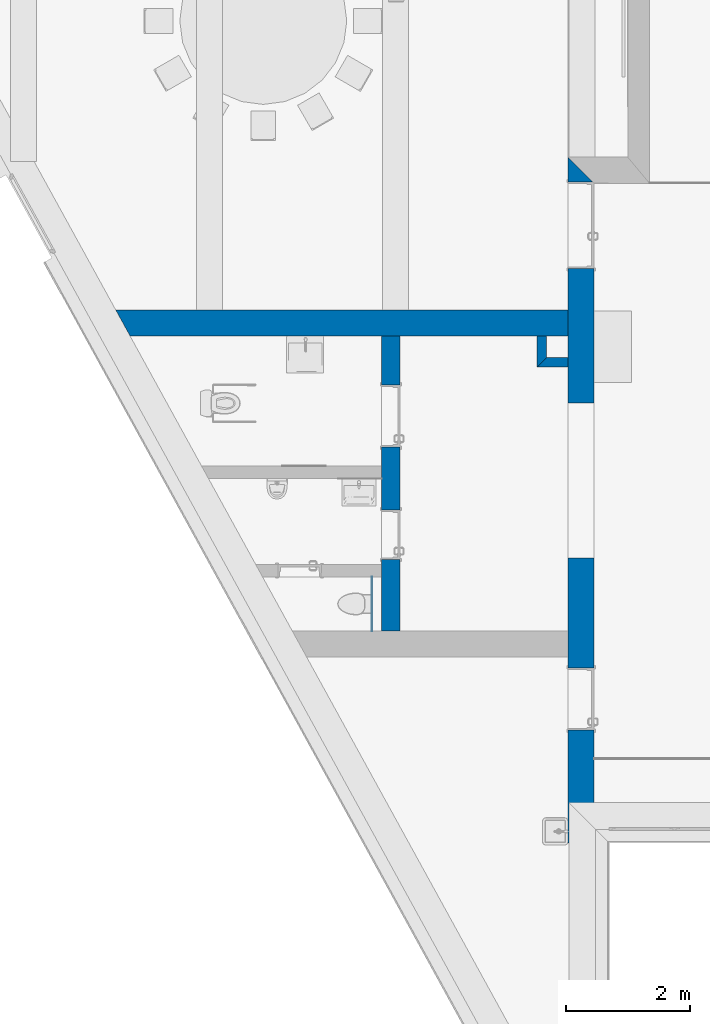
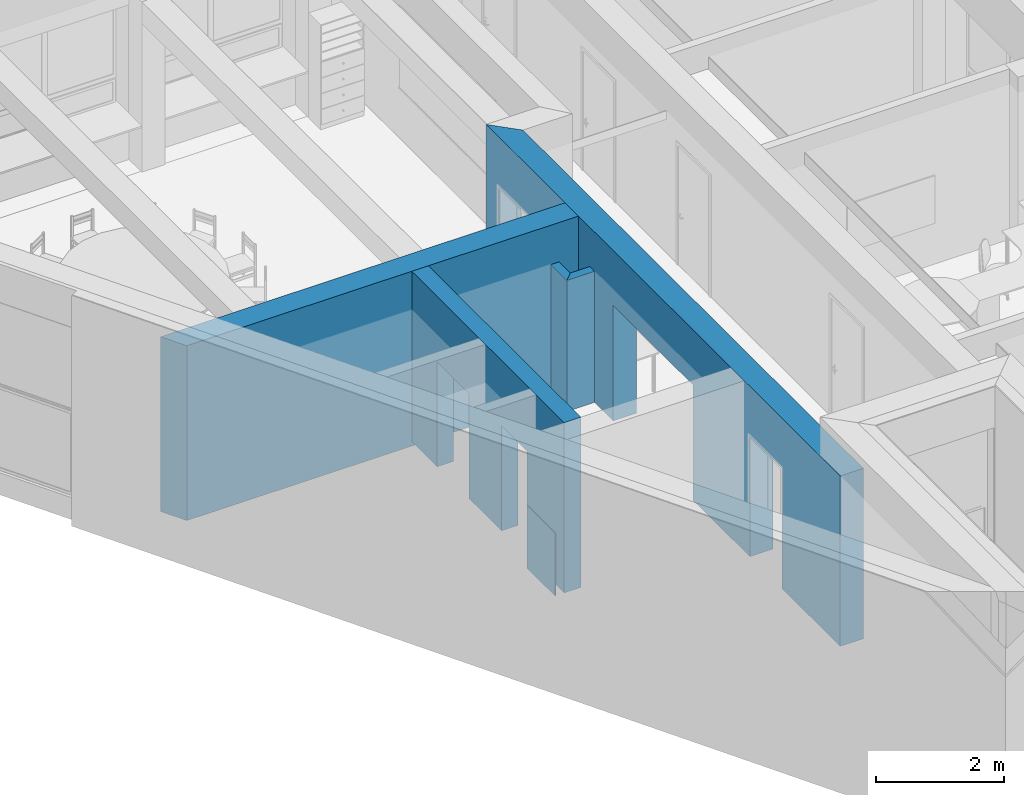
# One storey, part 2 of 194: 6 walls, 5 openings.
"""IFC2X3 building model written with IfcOpenShell, lengths in millimetres."""

from ifc_helpers import new_model, entity, si_unit, converted_unit, derived_unit, money_unit, direction, frame, origin_with_axes, origin_2d_with_axis, place, context, subcontext, project, spatial, polyline, rectangle, outline, extrude, material, layer, layer_set, layer_usage, type_object, element, save


model = new_model("IFC2X3")

# Units and contexts
model_context = context("Model", 3, precision=1e-05, world=origin_with_axes(), true_north=direction((0.0, 1.0)))
body_context = subcontext(model_context, "Body", "Model", "MODEL_VIEW")
ifc_project = project(units=[si_unit("LENGTHUNIT", "METRE", prefix="MILLI"), si_unit("AREAUNIT", "SQUARE_METRE"), si_unit("VOLUMEUNIT", "CUBIC_METRE"), converted_unit("PLANEANGLEUNIT", "DEGREE", entity("IfcPlaneAngleMeasure", 0.0174532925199), si_unit("PLANEANGLEUNIT", "RADIAN"), dimensions=[0, 0, 0, 0, 0, 0, 0]), si_unit("SOLIDANGLEUNIT", "STERADIAN"), money_unit("EUR"), converted_unit("TIMEUNIT", "Year", entity("IfcTimeMeasure", 31556926.0), si_unit("TIMEUNIT", "SECOND"), dimensions=[0, 0, 1, 0, 0, 0, 0]), si_unit("MASSUNIT", "GRAM", prefix="KILO"), si_unit("THERMODYNAMICTEMPERATUREUNIT", "DEGREE_CELSIUS"), si_unit("LUMINOUSINTENSITYUNIT", "LUMEN"), si_unit("ENERGYUNIT", "JOULE", prefix="MEGA"), derived_unit("THERMALCONDUCTANCEUNIT", [(si_unit("POWERUNIT", "WATT"), 1), (si_unit("LENGTHUNIT", "METRE"), -1), (si_unit("THERMODYNAMICTEMPERATUREUNIT", "KELVIN"), -1)]), derived_unit("SPECIFICHEATCAPACITYUNIT", [(si_unit("ENERGYUNIT", "JOULE"), 1), (si_unit("MASSUNIT", "GRAM", prefix="KILO"), -1), (si_unit("THERMODYNAMICTEMPERATUREUNIT", "KELVIN"), -1)]), derived_unit("MASSDENSITYUNIT", [(si_unit("MASSUNIT", "GRAM", prefix="KILO"), 1), (si_unit("VOLUMEUNIT", "CUBIC_METRE"), -1)])], contexts=[model_context])

# Site, building, storey
site_placement = place(None, origin_with_axes())
site = spatial("IfcSite", under=ifc_project, at=site_placement, Name="Site", CompositionType="ELEMENT")
building_placement = place(site_placement, origin_with_axes())
building = spatial("IfcBuilding", under=site, at=building_placement, Name="Building", CompositionType="ELEMENT")
storey_placement = place(building_placement, frame((0.0, 0.0, 3000.0), z_axis=(0.0, 0.0, 1.0), x_axis=(1.0, 0.0, 0.0)))
storey = spatial("IfcBuildingStorey", under=building, at=storey_placement, Name="2 KORRUS", CompositionType="ELEMENT", Elevation=3000.0)

# Wall
ifc_material_1 = material(Name="Kivi -Ol.Olev Konstruktsioon")
ifc_layer_1 = layer(ifc_material_1, 420.0, ventilated="UNKNOWN")
ifc_layer_set_1 = layer_set([ifc_layer_1], Name="ol.olev ss 420")
ifc_layer_usage_1 = layer_usage(ifc_layer_set_1, "AXIS2", "POSITIVE", 0.0)
wall_type_1 = type_object("IfcWallType", Name="SW - 022", PredefinedType="NOTDEFINED")
wall_1_placement = place(storey_placement, frame((29168.2903862, 13483.9813304, -86.0), z_axis=(0.0, 0.0, 1.0), x_axis=(1.0, 0.0, 0.0)))
element("IfcWallStandardCase", 1, at=wall_1_placement, inside=storey, type_object=wall_type_1, material=ifc_layer_usage_1, Name="ol.olev ss 420", context=body_context, shape_type="SweptSolid", body=[
    extrude(outline(polyline([(490.747144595, 0.0), (7556.59292267, 0.0), (7556.59292267, 420.0), (259.746091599, 420.0), (490.747144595, 0.0)])), origin_with_axes(), (0.0, 0.0, 1.0), 3336.0),
])

# Wall, openings
ifc_layer_2 = layer(ifc_material_1, 300.0, ventilated="UNKNOWN")
ifc_layer_set_2 = layer_set([ifc_layer_2], Name="ol.olev ss 300")
ifc_layer_usage_2 = layer_usage(ifc_layer_set_2, "AXIS2", "POSITIVE", 0.0)
wall_2_placement = place(storey_placement, frame((33717.5084509, 13483.9813304, 0.0), z_axis=(0.0, 0.0, 1.0), x_axis=(0.0, -1.0, 0.0)))
wall_2 = element("IfcWallStandardCase", 2, at=wall_2_placement, inside=storey, type_object=wall_type_1, material=ifc_layer_usage_2, Name="ol.olev ss 300", context=body_context, shape_type="SweptSolid", body=[
    extrude(outline(polyline([(0.0, 0.0), (4760.45253446, 0.0), (4760.45253446, 300.0), (0.0, 300.0), (0.0, 0.0)])), origin_with_axes(), (0.0, 0.0, 1.0), 3250.0),
])
opening_1_placement = place(wall_2_placement, frame((3204.63694047, 0.0, 0.0), z_axis=(0.0, 0.0, 1.0), x_axis=(1.0, 0.0, 0.0)))
element("IfcOpeningElement", 3, at=opening_1_placement, cuts=wall_2, Name="Siseuks * Door 22", context=body_context, shape_type="SweptSolid", body=[
    extrude(rectangle(XDim=799.999999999, YDim=2000.0, at=origin_2d_with_axis()), frame((0.0, -300.0, 1000.0), z_axis=(0.0, -1.0, 0.0), x_axis=(-1.0, 0.0, 0.0)), (0.0, 0.0, -1.0), 900.0),
    extrude(rectangle(XDim=874.0, YDim=2037.0, at=origin_2d_with_axis()), frame((0.0, 0.0, 1018.5), z_axis=(0.0, -1.0, 0.0), x_axis=(-1.0, 0.0, 0.0)), (0.0, 0.0, 1.0), 300.0),
    extrude(rectangle(XDim=874.0, YDim=2037.0, at=origin_2d_with_axis()), frame((0.0, 300.0, 1018.5), z_axis=(0.0, 1.0, 0.0), x_axis=(-1.0, 0.0, 0.0)), (0.0, 0.0, 1.0), 300.0),
])
opening_2_placement = place(wall_2_placement, frame((1291.46386027, 0.0, 0.0), z_axis=(0.0, 0.0, 1.0), x_axis=(1.0, 0.0, 0.0)))
element("IfcOpeningElement", 4, at=opening_2_placement, cuts=wall_2, Name="Siseuks * Door 22", context=body_context, shape_type="SweptSolid", body=[
    extrude(rectangle(XDim=1000.0, YDim=2000.0, at=origin_2d_with_axis()), frame((0.0, -300.0, 1000.0), z_axis=(0.0, -1.0, 0.0), x_axis=(-1.0, 0.0, 0.0)), (0.0, 0.0, -1.0), 900.0),
    extrude(rectangle(XDim=1074.0, YDim=2037.0, at=origin_2d_with_axis()), frame((0.0, 0.0, 1018.5), z_axis=(0.0, -1.0, 0.0), x_axis=(-1.0, 0.0, 0.0)), (0.0, 0.0, 1.0), 300.0),
    extrude(rectangle(XDim=1074.0, YDim=2037.0, at=origin_2d_with_axis()), frame((0.0, 300.0, 1018.5), z_axis=(0.0, 1.0, 0.0), x_axis=(-1.0, 0.0, 0.0)), (0.0, 0.0, 1.0), 300.0),
])

ifc_layer_usage_3 = layer_usage(ifc_layer_set_1, "AXIS2", "POSITIVE", 0.0)
wall_type_2 = type_object("IfcWallType", Name="SW - 023", PredefinedType="NOTDEFINED")
wall_3_placement = place(storey_placement, frame((37144.8833089, 5307.76650233, 0.0), z_axis=(0.0, 0.0, 1.0), x_axis=(0.0, 1.0, 0.0)))
wall_3 = element("IfcWallStandardCase", 5, at=wall_3_placement, inside=storey, type_object=wall_type_2, material=ifc_layer_usage_3, Name="ol.olev ss 420", context=body_context, shape_type="SweptSolid", body=[
    extrude(outline(polyline([(0.0, 0.0), (10639.2321856, 0.0), (11059.9335517, 420.0), (0.0, 420.0), (0.0, 0.0)])), origin_with_axes(), (0.0, 0.0, 1.0), 3250.0),
])
opening_3_placement = place(wall_3_placement, frame((2319.67010377, 0.0, 0.0), z_axis=(0.0, 0.0, 1.0), x_axis=(1.0, 0.0, 0.0)))
element("IfcOpeningElement", 6, at=opening_3_placement, cuts=wall_3, Name="Siseuks * Door 22", context=body_context, shape_type="SweptSolid", body=[
    extrude(rectangle(XDim=1000.0, YDim=2300.0, at=origin_2d_with_axis()), frame((0.0, 420.0, 1150.0), z_axis=(0.0, 1.0, 0.0), x_axis=(1.0, 0.0, 0.0)), (0.0, 0.0, -1.0), 1260.0),
    extrude(rectangle(XDim=1074.0, YDim=2337.0, at=origin_2d_with_axis()), frame((0.0, 420.0, 1168.5), z_axis=(0.0, 1.0, 0.0), x_axis=(1.0, 0.0, 0.0)), (0.0, 0.0, 1.0), 420.0),
    extrude(rectangle(XDim=1074.0, YDim=2337.0, at=origin_2d_with_axis()), frame((0.0, 0.0, 1168.5), z_axis=(0.0, -1.0, 0.0), x_axis=(1.0, 0.0, 0.0)), (0.0, 0.0, 1.0), 420.0),
])
opening_4_placement = place(wall_3_placement, frame((9960.45850572, 0.0, 0.0), z_axis=(0.0, 0.0, 1.0), x_axis=(1.0, 0.0, 0.0)))
element("IfcOpeningElement", 7, at=opening_4_placement, cuts=wall_3, Name="Saali uks * Double Door 22", context=body_context, shape_type="SweptSolid", body=[
    extrude(rectangle(XDim=1400.0, YDim=2300.0, at=origin_2d_with_axis()), frame((0.0, 420.0, 1150.0), z_axis=(0.0, -1.0, 0.0), x_axis=(-1.0, 0.0, 0.0)), (0.0, 0.0, 1.0), 1260.0),
    extrude(rectangle(XDim=1474.0, YDim=2337.0, at=origin_2d_with_axis()), frame((0.0, 420.0, 1168.5), z_axis=(0.0, -1.0, 0.0), x_axis=(-1.0, 0.0, 0.0)), (0.0, 0.0, -1.0), 420.0),
    extrude(rectangle(XDim=1474.0, YDim=2337.0, at=origin_2d_with_axis()), frame((0.0, 0.0, 1168.5), z_axis=(0.0, 1.0, 0.0), x_axis=(-1.0, 0.0, 0.0)), (0.0, 0.0, -1.0), 420.0),
])
opening_5_placement = place(wall_3_placement, frame((5840.80387855, 0.0, 0.0), z_axis=(0.0, 0.0, 1.0), x_axis=(1.0, 0.0, 0.0)))
element("IfcOpeningElement", 8, at=opening_5_placement, cuts=wall_3, Name="Background;  Objekti nimi: Simple Door Opening", context=body_context, shape_type="SweptSolid", body=[
    extrude(rectangle(XDim=2380.0, YDim=2140.0, at=origin_2d_with_axis()), frame((0.0, 0.0, 1070.0), z_axis=(0.0, 1.0, 0.0), x_axis=(1.0, 0.0, 0.0)), (0.0, 0.0, -1.0), 420.0),
    extrude(rectangle(XDim=2500.0, YDim=2200.0, at=origin_2d_with_axis()), frame((0.0, 0.0, 1100.0), z_axis=(0.0, -1.0, 0.0), x_axis=(1.0, 0.0, 0.0)), (0.0, 0.0, -1.0), 420.0),
])

# Walls
ifc_material_2 = material(Name="Kipsplaat")
ifc_layer_3 = layer(ifc_material_2, 13.0, ventilated="UNKNOWN")
ifc_layer_set_3 = layer_set([ifc_layer_3], Name="Kipsplaat 13")
ifc_layer_usage_4 = layer_usage(ifc_layer_set_3, "AXIS2", "NEGATIVE", 0.0)
wall_type_3 = type_object("IfcWallType", Name="loputuskasti raam", PredefinedType="NOTDEFINED")
wall_4_placement = place(storey_placement, frame((33567.5084509, 9596.11004408, 0.0), z_axis=(0.0, 0.0, 1.0), x_axis=(0.0, -1.0, 0.0)))
element("IfcWallStandardCase", 9, at=wall_4_placement, inside=storey, type_object=wall_type_3, material=ifc_layer_usage_4, Name="Kipsplaat", context=body_context, shape_type="SweptSolid", body=[
    extrude(outline(polyline([(0.0, -13.0), (872.581248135, -13.0), (872.581248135, 0.0), (0.0, 0.0), (0.0, -13.0)])), origin_with_axes(), (0.0, 0.0, 1.0), 1200.0),
])
ifc_material_3 = material(Name="Kivi -  Uus Konstruktsioon")
ifc_layer_4 = layer(ifc_material_3, 150.0, ventilated="UNKNOWN")
ifc_layer_set_4 = layer_set([ifc_layer_4], Name="uus ss 150")
ifc_layer_usage_5 = layer_usage(ifc_layer_set_4, "AXIS2", "NEGATIVE", 0.0)
wall_type_4 = type_object("IfcWallType", Name="SS-1*", PredefinedType="NOTDEFINED")
wall_5_placement = place(storey_placement, frame((36376.2883246, 13133.7495317, 0.0), z_axis=(0.0, 0.0, 1.0), x_axis=(1.0, 0.0, 0.0)))
element("IfcWallStandardCase", 10, at=wall_5_placement, inside=storey, type_object=wall_type_4, material=ifc_layer_usage_5, Name="sahti sein", context=body_context, shape_type="SweptSolid", body=[
    extrude(outline(polyline([(-150.0, -150.0), (348.594984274, -150.0), (348.594984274, 0.0), (0.0, 0.0), (-150.0, -150.0)])), origin_with_axes(), (0.0, 0.0, 1.0), 2500.0),
])
ifc_layer_usage_6 = layer_usage(ifc_layer_set_4, "AXIS2", "NEGATIVE", 0.0)
wall_6_placement = place(storey_placement, frame((36376.2883246, 13483.9813304, 0.0), z_axis=(0.0, 0.0, 1.0), x_axis=(0.0, -1.0, 0.0)))
element("IfcWallStandardCase", 11, at=wall_6_placement, inside=storey, type_object=wall_type_4, material=ifc_layer_usage_6, Name="sahti sein", context=body_context, shape_type="SweptSolid", body=[
    extrude(outline(polyline([(0.0, -150.0), (500.231798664, -150.0), (350.231798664, 0.0), (0.0, 0.0), (0.0, -150.0)])), origin_with_axes(), (0.0, 0.0, 1.0), 2500.0),
])

save(model, "model.ifc")
